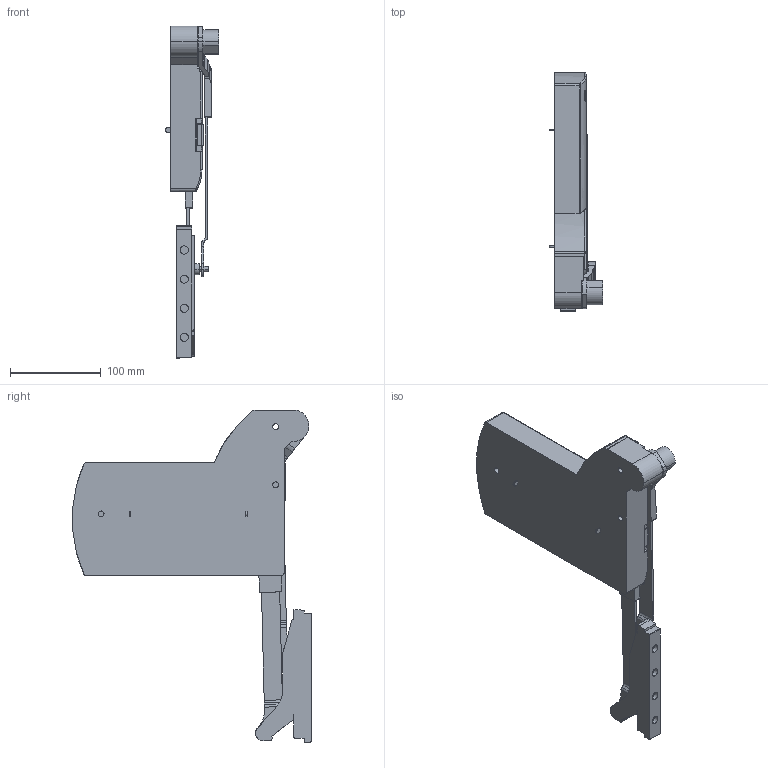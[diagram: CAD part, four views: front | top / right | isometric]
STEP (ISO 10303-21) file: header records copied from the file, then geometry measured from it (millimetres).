
FILE_DESCRIPTION (( 'STEP AP203' ), '1' );
FILE_NAME ('Kinvaro_L-80_Typ4_links_D2806014125~b.step', '2012-05-04T06:36:55', ( 'admin' ), ( 'Hewlett-Packard Company' ), 'SwSTEP 2.0', 'SolidWorks 2011', '' );
FILE_SCHEMA (( 'CONFIG_CONTROL_DESIGN' ));
Length unit declared in the file: millimetre
Products named in the file (1): Kinvaro_L-80_Typ4_links_D2806014125~b
Bounding box: 59 x 262.07 x 364.95 mm (x, y, z)
Volume: 1203472.1 mm3; surface area: 138158.2 mm2
Topology: 1 solids, 1 shells, 607 faces, 1679 edges, 1095 vertices
Faces by surface type: cylinder 325, plane 240, bspline 22, torus 18, sphere 2
Entity records: 20368 total; most frequent: CARTESIAN_POINT 4861, ORIENTED_EDGE 3352, DIRECTION 3182, EDGE_CURVE 1676, AXIS2_PLACEMENT_3D 1144, VERTEX_POINT 1095, LINE 894, VECTOR 894
